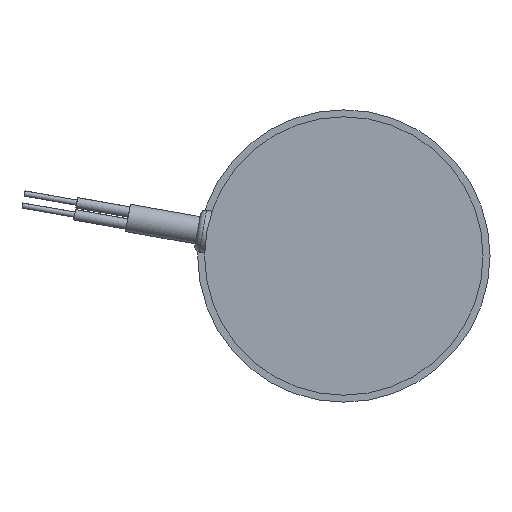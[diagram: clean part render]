
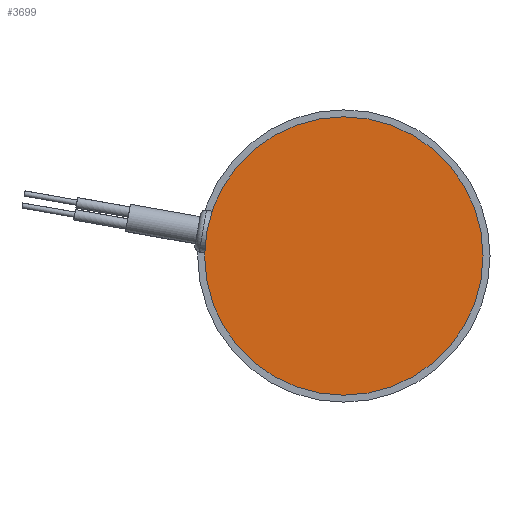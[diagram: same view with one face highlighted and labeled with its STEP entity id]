
A CAD part, left-side view. The second image highlights one B-rep face of the part: STEP entity #3699.
In plain terms, the highlighted planar face has unit normal (-1, 0, 0).
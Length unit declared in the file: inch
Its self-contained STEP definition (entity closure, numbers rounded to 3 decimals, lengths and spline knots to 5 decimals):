
#246 = DIRECTION ( 'NONE',  ( 1., 0., 0. ) ) ;
#610 = AXIS2_PLACEMENT_3D ( 'NONE', #3315, #4633, #5780 ) ;
#1276 = DIRECTION ( 'NONE',  ( 0., 1., 0. ) ) ;
#1872 = ORIENTED_EDGE ( 'NONE', *, *, #6981, .F. ) ;
#2032 = CARTESIAN_POINT ( 'NONE',  ( -6.12864, -0.07197, 0.2217 ) ) ;
#2044 = AXIS2_PLACEMENT_3D ( 'NONE', #5582, #7401, #1276 ) ;
#2126 = CIRCLE ( 'NONE', #2044, 0.7874 ) ;
#2753 = ORIENTED_EDGE ( 'NONE', *, *, #6572, .F. ) ;
#3279 = AXIS2_PLACEMENT_3D ( 'NONE', #2032, #246, #7151 ) ;
#3315 = CARTESIAN_POINT ( 'NONE',  ( -6.12864, -0.07197, 0.2217 ) ) ;
#3699 = ADVANCED_FACE ( 'NONE', ( #4380 ), #5832, .F. ) ;
#4380 = FACE_OUTER_BOUND ( 'NONE', #4601, .T. ) ;
#4601 = EDGE_LOOP ( 'NONE', ( #1872, #2753 ) ) ;
#4633 = DIRECTION ( 'NONE',  ( 1., 0., 0. ) ) ;
#5582 = CARTESIAN_POINT ( 'NONE',  ( -6.12864, -0.07197, 0.2217 ) ) ;
#5780 = DIRECTION ( 'NONE',  ( 0., 1., 0. ) ) ;
#5832 = PLANE ( 'NONE',  #610 ) ;
#6099 = CARTESIAN_POINT ( 'NONE',  ( -6.12864, -0.85937, 0.2217 ) ) ;
#6119 = CIRCLE ( 'NONE', #3279, 0.7874 ) ;
#6145 = VERTEX_POINT ( 'NONE', #7633 ) ;
#6572 = EDGE_CURVE ( 'NONE', #6145, #7473, #2126, .T. ) ;
#6981 = EDGE_CURVE ( 'NONE', #7473, #6145, #6119, .T. ) ;
#7151 = DIRECTION ( 'NONE',  ( 0., 1., 0. ) ) ;
#7401 = DIRECTION ( 'NONE',  ( 1., 0., 0. ) ) ;
#7473 = VERTEX_POINT ( 'NONE', #6099 ) ;
#7633 = CARTESIAN_POINT ( 'NONE',  ( -6.12864, 0.71543, 0.2217 ) ) ;
